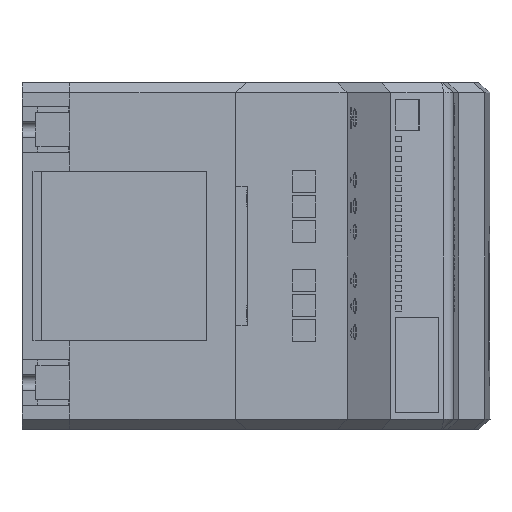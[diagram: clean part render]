
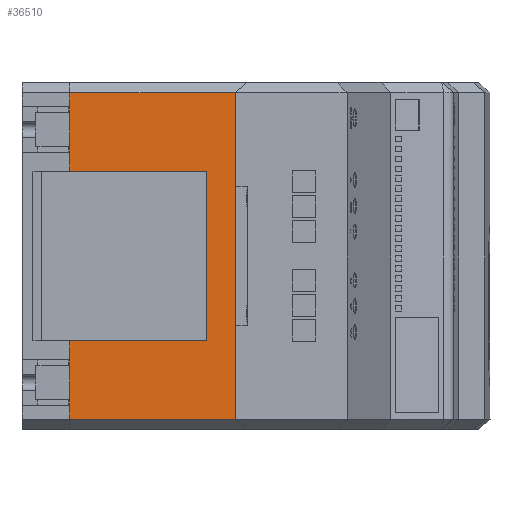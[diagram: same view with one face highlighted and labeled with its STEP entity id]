
A CAD part, front view. The second image highlights one B-rep face of the part: STEP entity #36510.
In plain terms, the highlighted planar face has unit normal (0.035, -0.999, 0).
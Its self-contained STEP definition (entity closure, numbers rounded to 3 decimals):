
#3 = VECTOR ( 'NONE', #37007, 1000. ) ;
#19 = LINE ( 'NONE', #34839, #32129 ) ;
#397 = CARTESIAN_POINT ( 'NONE',  ( -70.348, -172.731, 139. ) ) ;
#946 = VECTOR ( 'NONE', #1400, 1000. ) ;
#1400 = DIRECTION ( 'NONE',  ( 0., 0., -1. ) ) ;
#1782 = DIRECTION ( 'NONE',  ( 0., 0., -1. ) ) ;
#2116 = VERTEX_POINT ( 'NONE', #5264 ) ;
#2209 = CARTESIAN_POINT ( 'NONE',  ( -1.863, -170.339, 174. ) ) ;
#2228 = DIRECTION ( 'NONE',  ( 0., 0., -1. ) ) ;
#2416 = CARTESIAN_POINT ( 'NONE',  ( -1.863, -170.339, 44.5 ) ) ;
#2799 = VERTEX_POINT ( 'NONE', #14955 ) ;
#2956 = CARTESIAN_POINT ( 'NONE',  ( -70.348, -172.731, 174. ) ) ;
#3004 = VECTOR ( 'NONE', #45603, 1000. ) ;
#3114 = ORIENTED_EDGE ( 'NONE', *, *, #12673, .T. ) ;
#3281 = VECTOR ( 'NONE', #6795, 1000. ) ;
#3549 = DIRECTION ( 'NONE',  ( 0., 0., -1. ) ) ;
#4112 = VERTEX_POINT ( 'NONE', #21939 ) ;
#4209 = CARTESIAN_POINT ( 'NONE',  ( -70.348, -172.731, 174. ) ) ;
#4710 = EDGE_LOOP ( 'NONE', ( #27933, #22868, #18118, #37849, #28129, #4780, #7418, #22730, #35275, #25876, #29225, #24164, #27338, #32977, #13455, #38999, #3114 ) ) ;
#4715 = LINE ( 'NONE', #2956, #43670 ) ;
#4780 = ORIENTED_EDGE ( 'NONE', *, *, #43823, .T. ) ;
#5079 = LINE ( 'NONE', #9023, #25310 ) ;
#5264 = CARTESIAN_POINT ( 'NONE',  ( -70.348, -172.731, 5. ) ) ;
#5984 = DIRECTION ( 'NONE',  ( 0., 0., 1. ) ) ;
#6103 = CARTESIAN_POINT ( 'NONE',  ( -70.348, -172.731, 174. ) ) ;
#6182 = CARTESIAN_POINT ( 'NONE',  ( -70.348, -172.731, 129.5 ) ) ;
#6616 = VERTEX_POINT ( 'NONE', #42161 ) ;
#6795 = DIRECTION ( 'NONE',  ( 0., 0., -1. ) ) ;
#7418 = ORIENTED_EDGE ( 'NONE', *, *, #15882, .T. ) ;
#8226 = VERTEX_POINT ( 'NONE', #20010 ) ;
#8771 = DIRECTION ( 'NONE',  ( -0.035, 0.999, 0. ) ) ;
#8895 = VERTEX_POINT ( 'NONE', #28288 ) ;
#8933 = VERTEX_POINT ( 'NONE', #43462 ) ;
#8961 = DIRECTION ( 'NONE',  ( 0., 0., -1. ) ) ;
#9023 = CARTESIAN_POINT ( 'NONE',  ( -70.348, -172.731, 174. ) ) ;
#9276 = VERTEX_POINT ( 'NONE', #24248 ) ;
#9386 = CARTESIAN_POINT ( 'NONE',  ( -70.348, -172.731, 129.5 ) ) ;
#9394 = VERTEX_POINT ( 'NONE', #11091 ) ;
#9544 = LINE ( 'NONE', #2209, #38240 ) ;
#9686 = DIRECTION ( 'NONE',  ( 0., 0., -1. ) ) ;
#9954 = CARTESIAN_POINT ( 'NONE',  ( -70.348, -172.731, 35. ) ) ;
#10738 = VERTEX_POINT ( 'NONE', #397 ) ;
#10824 = DIRECTION ( 'NONE',  ( 0., 0., -1. ) ) ;
#10849 = LINE ( 'NONE', #18385, #36756 ) ;
#10933 = VECTOR ( 'NONE', #9686, 1000. ) ;
#11091 = CARTESIAN_POINT ( 'NONE',  ( -1.863, -170.339, 44.5 ) ) ;
#11157 = EDGE_CURVE ( 'NONE', #4112, #9394, #26389, .T. ) ;
#12111 = CARTESIAN_POINT ( 'NONE',  ( -70.348, -172.731, 174. ) ) ;
#12228 = PLANE ( 'NONE',  #21572 ) ;
#12332 = VECTOR ( 'NONE', #3549, 1000. ) ;
#12673 = EDGE_CURVE ( 'NONE', #26423, #8226, #28612, .T. ) ;
#12933 = CARTESIAN_POINT ( 'NONE',  ( 12.664, -169.832, 5. ) ) ;
#13455 = ORIENTED_EDGE ( 'NONE', *, *, #19843, .T. ) ;
#13920 = LINE ( 'NONE', #16501, #44368 ) ;
#14403 = VERTEX_POINT ( 'NONE', #25859 ) ;
#14955 = CARTESIAN_POINT ( 'NONE',  ( -70.348, -172.731, 159. ) ) ;
#15146 = CARTESIAN_POINT ( 'NONE',  ( -70.348, -172.731, 15. ) ) ;
#15196 = DIRECTION ( 'NONE',  ( 0., 0., -1. ) ) ;
#15399 = EDGE_CURVE ( 'NONE', #8895, #26423, #4715, .T. ) ;
#15428 = FACE_OUTER_BOUND ( 'NONE', #4710, .T. ) ;
#15462 = VERTEX_POINT ( 'NONE', #42367 ) ;
#15577 = VECTOR ( 'NONE', #10824, 1000. ) ;
#15882 = EDGE_CURVE ( 'NONE', #2799, #9276, #46418, .T. ) ;
#15932 = EDGE_CURVE ( 'NONE', #14403, #31317, #36793, .T. ) ;
#15967 = CARTESIAN_POINT ( 'NONE',  ( -70.348, -172.731, 174. ) ) ;
#16291 = DIRECTION ( 'NONE',  ( 0., 0., 1. ) ) ;
#16501 = CARTESIAN_POINT ( 'NONE',  ( -70.348, -172.731, 174. ) ) ;
#16597 = CARTESIAN_POINT ( 'NONE',  ( -70.348, -172.731, 174. ) ) ;
#18118 = ORIENTED_EDGE ( 'NONE', *, *, #26148, .F. ) ;
#18158 = EDGE_CURVE ( 'NONE', #10738, #31317, #5079, .T. ) ;
#18385 = CARTESIAN_POINT ( 'NONE',  ( -1.863, -170.339, 129.5 ) ) ;
#19285 = CARTESIAN_POINT ( 'NONE',  ( -70.348, -172.731, 174. ) ) ;
#19843 = EDGE_CURVE ( 'NONE', #21946, #8895, #20151, .T. ) ;
#20010 = CARTESIAN_POINT ( 'NONE',  ( -70.348, -172.731, 12. ) ) ;
#20151 = LINE ( 'NONE', #4209, #24657 ) ;
#20172 = CARTESIAN_POINT ( 'NONE',  ( -70.348, -172.731, 174. ) ) ;
#20999 = DIRECTION ( 'NONE',  ( 0., 0., -1. ) ) ;
#21032 = EDGE_CURVE ( 'NONE', #9276, #10738, #42674, .T. ) ;
#21572 = AXIS2_PLACEMENT_3D ( 'NONE', #15967, #8771, #36957 ) ;
#21861 = EDGE_CURVE ( 'NONE', #2116, #15462, #38638, .T. ) ;
#21939 = CARTESIAN_POINT ( 'NONE',  ( -70.348, -172.731, 44.5 ) ) ;
#21946 = VERTEX_POINT ( 'NONE', #9954 ) ;
#22730 = ORIENTED_EDGE ( 'NONE', *, *, #21032, .T. ) ;
#22868 = ORIENTED_EDGE ( 'NONE', *, *, #21861, .T. ) ;
#24164 = ORIENTED_EDGE ( 'NONE', *, *, #41599, .F. ) ;
#24248 = CARTESIAN_POINT ( 'NONE',  ( -70.348, -172.731, 142. ) ) ;
#24649 = LINE ( 'NONE', #16597, #12332 ) ;
#24657 = VECTOR ( 'NONE', #15196, 1000. ) ;
#25310 = VECTOR ( 'NONE', #1782, 1000. ) ;
#25773 = DIRECTION ( 'NONE',  ( 0., 0., 1. ) ) ;
#25781 = CARTESIAN_POINT ( 'NONE',  ( -70.348, -172.731, 44.5 ) ) ;
#25859 = CARTESIAN_POINT ( 'NONE',  ( -1.863, -170.339, 129.5 ) ) ;
#25876 = ORIENTED_EDGE ( 'NONE', *, *, #15932, .F. ) ;
#26148 = EDGE_CURVE ( 'NONE', #6616, #15462, #32504, .T. ) ;
#26389 = LINE ( 'NONE', #25781, #3 ) ;
#26423 = VERTEX_POINT ( 'NONE', #15146 ) ;
#27338 = ORIENTED_EDGE ( 'NONE', *, *, #11157, .F. ) ;
#27933 = ORIENTED_EDGE ( 'NONE', *, *, #39359, .F. ) ;
#28129 = ORIENTED_EDGE ( 'NONE', *, *, #45679, .T. ) ;
#28288 = CARTESIAN_POINT ( 'NONE',  ( -70.348, -172.731, 32. ) ) ;
#28612 = LINE ( 'NONE', #46158, #3281 ) ;
#29225 = ORIENTED_EDGE ( 'NONE', *, *, #30463, .F. ) ;
#29295 = EDGE_CURVE ( 'NONE', #4112, #21946, #39066, .T. ) ;
#30087 = DIRECTION ( 'NONE',  ( 0.999, 0.035, 0. ) ) ;
#30463 = EDGE_CURVE ( 'NONE', #40087, #14403, #10849, .T. ) ;
#30547 = VECTOR ( 'NONE', #16291, 1000. ) ;
#31317 = VERTEX_POINT ( 'NONE', #6182 ) ;
#32129 = VECTOR ( 'NONE', #35463, 1000. ) ;
#32373 = CARTESIAN_POINT ( 'NONE',  ( 12.664, -169.832, 174. ) ) ;
#32504 = LINE ( 'NONE', #32373, #15577 ) ;
#32858 = VECTOR ( 'NONE', #8961, 1000. ) ;
#32977 = ORIENTED_EDGE ( 'NONE', *, *, #29295, .T. ) ;
#34839 = CARTESIAN_POINT ( 'NONE',  ( -70.348, -172.731, 169. ) ) ;
#35275 = ORIENTED_EDGE ( 'NONE', *, *, #18158, .T. ) ;
#35463 = DIRECTION ( 'NONE',  ( -0.999, -0.035, 0. ) ) ;
#36510 = ADVANCED_FACE ( 'NONE', ( #15428 ), #12228, .F. ) ;
#36756 = VECTOR ( 'NONE', #25773, 1000. ) ;
#36793 = LINE ( 'NONE', #9386, #3004 ) ;
#36957 = DIRECTION ( 'NONE',  ( -0.999, -0.035, 0. ) ) ;
#37007 = DIRECTION ( 'NONE',  ( 0.999, 0.035, 0. ) ) ;
#37270 = CARTESIAN_POINT ( 'NONE',  ( -70.348, -172.731, 162. ) ) ;
#37849 = ORIENTED_EDGE ( 'NONE', *, *, #41044, .T. ) ;
#38240 = VECTOR ( 'NONE', #5984, 1000. ) ;
#38638 = LINE ( 'NONE', #12933, #39772 ) ;
#38999 = ORIENTED_EDGE ( 'NONE', *, *, #15399, .T. ) ;
#39066 = LINE ( 'NONE', #12111, #32858 ) ;
#39359 = EDGE_CURVE ( 'NONE', #2116, #8226, #45232, .T. ) ;
#39772 = VECTOR ( 'NONE', #30087, 1000. ) ;
#40087 = VERTEX_POINT ( 'NONE', #2416 ) ;
#41044 = EDGE_CURVE ( 'NONE', #6616, #8933, #19, .T. ) ;
#41599 = EDGE_CURVE ( 'NONE', #9394, #40087, #9544, .T. ) ;
#42161 = CARTESIAN_POINT ( 'NONE',  ( 12.664, -169.832, 169. ) ) ;
#42200 = VERTEX_POINT ( 'NONE', #37270 ) ;
#42367 = CARTESIAN_POINT ( 'NONE',  ( 12.664, -169.832, 5. ) ) ;
#42674 = LINE ( 'NONE', #19285, #946 ) ;
#43462 = CARTESIAN_POINT ( 'NONE',  ( -70.348, -172.731, 169. ) ) ;
#43670 = VECTOR ( 'NONE', #20999, 1000. ) ;
#43823 = EDGE_CURVE ( 'NONE', #42200, #2799, #13920, .T. ) ;
#44368 = VECTOR ( 'NONE', #2228, 1000. ) ;
#45232 = LINE ( 'NONE', #6103, #30547 ) ;
#45603 = DIRECTION ( 'NONE',  ( -0.999, -0.035, 0. ) ) ;
#45679 = EDGE_CURVE ( 'NONE', #8933, #42200, #24649, .T. ) ;
#46158 = CARTESIAN_POINT ( 'NONE',  ( -70.348, -172.731, 174. ) ) ;
#46418 = LINE ( 'NONE', #20172, #10933 ) ;
